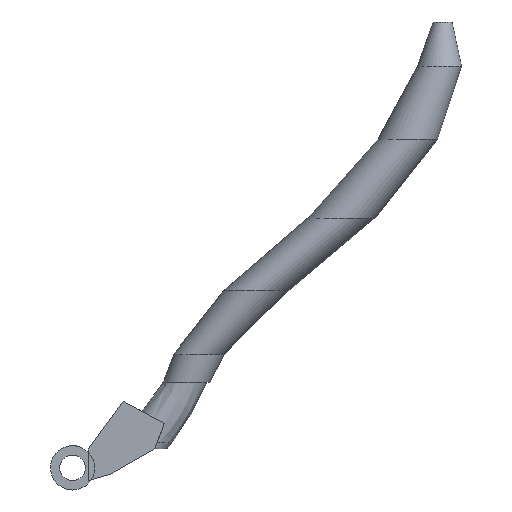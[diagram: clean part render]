
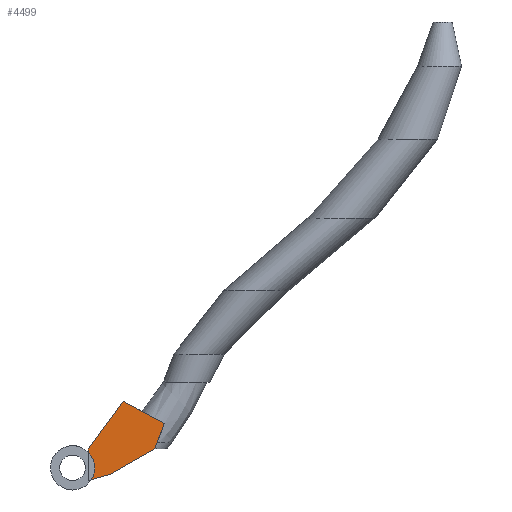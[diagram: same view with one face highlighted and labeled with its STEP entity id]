
A CAD part, front view. The second image highlights one B-rep face of the part: STEP entity #4499.
In plain terms, the highlighted planar face has unit normal (0, -1, 0).
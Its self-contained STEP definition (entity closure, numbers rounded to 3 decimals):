
#2869 = PLANE('',#2870);
#2870 = AXIS2_PLACEMENT_3D('',#2871,#2872,#2873);
#2871 = CARTESIAN_POINT('',(166.,0.,136.));
#2872 = DIRECTION('',(0.936,0.,-0.351));
#2873 = DIRECTION('',(0.351,0.,0.936));
#3612 = PLANE('',#3613);
#3613 = AXIS2_PLACEMENT_3D('',#3614,#3615,#3616);
#3614 = CARTESIAN_POINT('',(169.,0.,144.));
#3615 = DIRECTION('',(0.474,0.,0.88));
#3616 = DIRECTION('',(-0.88,0.,0.474));
#3748 = PLANE('',#3749);
#3749 = AXIS2_PLACEMENT_3D('',#3750,#3751,#3752);
#3750 = CARTESIAN_POINT('',(145.,0.,136.));
#3751 = DIRECTION('',(-1.,0.,0.));
#3752 = DIRECTION('',(0.,0.,-1.));
#3776 = PLANE('',#3777);
#3777 = AXIS2_PLACEMENT_3D('',#3778,#3779,#3780);
#3778 = CARTESIAN_POINT('',(145.,0.,126.));
#3779 = DIRECTION('',(0.275,0.,-0.962));
#3780 = DIRECTION('',(0.962,0.,0.275));
#3804 = PLANE('',#3805);
#3805 = AXIS2_PLACEMENT_3D('',#3806,#3807,#3808);
#3806 = CARTESIAN_POINT('',(152.,0.,128.));
#3807 = DIRECTION('',(0.496,0.,-0.868));
#3808 = DIRECTION('',(0.868,0.,0.496));
#3896 = PLANE('',#3897);
#3897 = AXIS2_PLACEMENT_3D('',#3898,#3899,#3900);
#3898 = CARTESIAN_POINT('',(156.,0.,151.));
#3899 = DIRECTION('',(-0.806,0.,0.591));
#3900 = DIRECTION('',(-0.591,0.,-0.806));
#3968 = EDGE_CURVE('',#3969,#3971,#3973,.T.);
#3969 = VERTEX_POINT('',#3970);
#3970 = CARTESIAN_POINT('',(166.,0.,136.));
#3971 = VERTEX_POINT('',#3972);
#3972 = CARTESIAN_POINT('',(169.,0.,144.));
#3973 = SURFACE_CURVE('',#3974,(#3978,#3985),.PCURVE_S1.);
#3974 = LINE('',#3975,#3976);
#3975 = CARTESIAN_POINT('',(166.,0.,136.));
#3976 = VECTOR('',#3977,1.);
#3977 = DIRECTION('',(0.351,0.,0.936));
#3978 = PCURVE('',#2869,#3979);
#3979 = DEFINITIONAL_REPRESENTATION('',(#3980),#3984);
#3980 = LINE('',#3981,#3982);
#3981 = CARTESIAN_POINT('',(0.,0.));
#3982 = VECTOR('',#3983,1.);
#3983 = DIRECTION('',(1.,0.));
#3984 = ( GEOMETRIC_REPRESENTATION_CONTEXT(2) 
PARAMETRIC_REPRESENTATION_CONTEXT() REPRESENTATION_CONTEXT('2D SPACE',''
  ) );
#3985 = PCURVE('',#3986,#3991);
#3986 = PLANE('',#3987);
#3987 = AXIS2_PLACEMENT_3D('',#3988,#3989,#3990);
#3988 = CARTESIAN_POINT('',(155.677,0.,138.17));
#3989 = DIRECTION('',(-0.,-1.,-0.));
#3990 = DIRECTION('',(0.,0.,-1.));
#3991 = DEFINITIONAL_REPRESENTATION('',(#3992),#3996);
#3992 = LINE('',#3993,#3994);
#3993 = CARTESIAN_POINT('',(2.17,10.323));
#3994 = VECTOR('',#3995,1.);
#3995 = DIRECTION('',(-0.936,0.351));
#3996 = ( GEOMETRIC_REPRESENTATION_CONTEXT(2) 
PARAMETRIC_REPRESENTATION_CONTEXT() REPRESENTATION_CONTEXT('2D SPACE',''
  ) );
#4045 = EDGE_CURVE('',#3971,#4046,#4048,.T.);
#4046 = VERTEX_POINT('',#4047);
#4047 = CARTESIAN_POINT('',(156.,0.,151.));
#4048 = SURFACE_CURVE('',#4049,(#4053,#4060),.PCURVE_S1.);
#4049 = LINE('',#4050,#4051);
#4050 = CARTESIAN_POINT('',(169.,0.,144.));
#4051 = VECTOR('',#4052,1.);
#4052 = DIRECTION('',(-0.88,0.,0.474));
#4053 = PCURVE('',#3612,#4054);
#4054 = DEFINITIONAL_REPRESENTATION('',(#4055),#4059);
#4055 = LINE('',#4056,#4057);
#4056 = CARTESIAN_POINT('',(0.,0.));
#4057 = VECTOR('',#4058,1.);
#4058 = DIRECTION('',(1.,0.));
#4059 = ( GEOMETRIC_REPRESENTATION_CONTEXT(2) 
PARAMETRIC_REPRESENTATION_CONTEXT() REPRESENTATION_CONTEXT('2D SPACE',''
  ) );
#4060 = PCURVE('',#3986,#4061);
#4061 = DEFINITIONAL_REPRESENTATION('',(#4062),#4066);
#4062 = LINE('',#4063,#4064);
#4063 = CARTESIAN_POINT('',(-5.83,13.323));
#4064 = VECTOR('',#4065,1.);
#4065 = DIRECTION('',(-0.474,-0.88));
#4066 = ( GEOMETRIC_REPRESENTATION_CONTEXT(2) 
PARAMETRIC_REPRESENTATION_CONTEXT() REPRESENTATION_CONTEXT('2D SPACE',''
  ) );
#4228 = EDGE_CURVE('',#4229,#4231,#4233,.T.);
#4229 = VERTEX_POINT('',#4230);
#4230 = CARTESIAN_POINT('',(145.,0.,136.));
#4231 = VERTEX_POINT('',#4232);
#4232 = CARTESIAN_POINT('',(145.,0.,134.899));
#4233 = SURFACE_CURVE('',#4234,(#4238,#4245),.PCURVE_S1.);
#4234 = LINE('',#4235,#4236);
#4235 = CARTESIAN_POINT('',(145.,0.,136.));
#4236 = VECTOR('',#4237,1.);
#4237 = DIRECTION('',(0.,0.,-1.));
#4238 = PCURVE('',#3748,#4239);
#4239 = DEFINITIONAL_REPRESENTATION('',(#4240),#4244);
#4240 = LINE('',#4241,#4242);
#4241 = CARTESIAN_POINT('',(0.,-0.));
#4242 = VECTOR('',#4243,1.);
#4243 = DIRECTION('',(1.,0.));
#4244 = ( GEOMETRIC_REPRESENTATION_CONTEXT(2) 
PARAMETRIC_REPRESENTATION_CONTEXT() REPRESENTATION_CONTEXT('2D SPACE',''
  ) );
#4245 = PCURVE('',#3986,#4246);
#4246 = DEFINITIONAL_REPRESENTATION('',(#4247),#4251);
#4247 = LINE('',#4248,#4249);
#4248 = CARTESIAN_POINT('',(2.17,-10.677));
#4249 = VECTOR('',#4250,1.);
#4250 = DIRECTION('',(1.,0.));
#4251 = ( GEOMETRIC_REPRESENTATION_CONTEXT(2) 
PARAMETRIC_REPRESENTATION_CONTEXT() REPRESENTATION_CONTEXT('2D SPACE',''
  ) );
#4354 = EDGE_CURVE('',#4046,#4229,#4355,.T.);
#4355 = SURFACE_CURVE('',#4356,(#4360,#4367),.PCURVE_S1.);
#4356 = LINE('',#4357,#4358);
#4357 = CARTESIAN_POINT('',(156.,0.,151.));
#4358 = VECTOR('',#4359,1.);
#4359 = DIRECTION('',(-0.591,0.,-0.806));
#4360 = PCURVE('',#3896,#4361);
#4361 = DEFINITIONAL_REPRESENTATION('',(#4362),#4366);
#4362 = LINE('',#4363,#4364);
#4363 = CARTESIAN_POINT('',(0.,0.));
#4364 = VECTOR('',#4365,1.);
#4365 = DIRECTION('',(1.,0.));
#4366 = ( GEOMETRIC_REPRESENTATION_CONTEXT(2) 
PARAMETRIC_REPRESENTATION_CONTEXT() REPRESENTATION_CONTEXT('2D SPACE',''
  ) );
#4367 = PCURVE('',#3986,#4368);
#4368 = DEFINITIONAL_REPRESENTATION('',(#4369),#4373);
#4369 = LINE('',#4370,#4371);
#4370 = CARTESIAN_POINT('',(-12.83,0.323));
#4371 = VECTOR('',#4372,1.);
#4372 = DIRECTION('',(0.806,-0.591));
#4373 = ( GEOMETRIC_REPRESENTATION_CONTEXT(2) 
PARAMETRIC_REPRESENTATION_CONTEXT() REPRESENTATION_CONTEXT('2D SPACE',''
  ) );
#4379 = VERTEX_POINT('',#4380);
#4380 = CARTESIAN_POINT('',(152.,0.,128.));
#4405 = EDGE_CURVE('',#4379,#3969,#4406,.T.);
#4406 = SURFACE_CURVE('',#4407,(#4411,#4418),.PCURVE_S1.);
#4407 = LINE('',#4408,#4409);
#4408 = CARTESIAN_POINT('',(152.,0.,128.));
#4409 = VECTOR('',#4410,1.);
#4410 = DIRECTION('',(0.868,0.,0.496));
#4411 = PCURVE('',#3804,#4412);
#4412 = DEFINITIONAL_REPRESENTATION('',(#4413),#4417);
#4413 = LINE('',#4414,#4415);
#4414 = CARTESIAN_POINT('',(0.,0.));
#4415 = VECTOR('',#4416,1.);
#4416 = DIRECTION('',(1.,0.));
#4417 = ( GEOMETRIC_REPRESENTATION_CONTEXT(2) 
PARAMETRIC_REPRESENTATION_CONTEXT() REPRESENTATION_CONTEXT('2D SPACE',''
  ) );
#4418 = PCURVE('',#3986,#4419);
#4419 = DEFINITIONAL_REPRESENTATION('',(#4420),#4424);
#4420 = LINE('',#4421,#4422);
#4421 = CARTESIAN_POINT('',(10.17,-3.677));
#4422 = VECTOR('',#4423,1.);
#4423 = DIRECTION('',(-0.496,0.868));
#4424 = ( GEOMETRIC_REPRESENTATION_CONTEXT(2) 
PARAMETRIC_REPRESENTATION_CONTEXT() REPRESENTATION_CONTEXT('2D SPACE',''
  ) );
#4453 = EDGE_CURVE('',#4454,#4379,#4456,.T.);
#4454 = VERTEX_POINT('',#4455);
#4455 = CARTESIAN_POINT('',(145.919,0.,126.262));
#4456 = SURFACE_CURVE('',#4457,(#4461,#4468),.PCURVE_S1.);
#4457 = LINE('',#4458,#4459);
#4458 = CARTESIAN_POINT('',(145.,0.,126.));
#4459 = VECTOR('',#4460,1.);
#4460 = DIRECTION('',(0.962,0.,0.275));
#4461 = PCURVE('',#3776,#4462);
#4462 = DEFINITIONAL_REPRESENTATION('',(#4463),#4467);
#4463 = LINE('',#4464,#4465);
#4464 = CARTESIAN_POINT('',(0.,0.));
#4465 = VECTOR('',#4466,1.);
#4466 = DIRECTION('',(1.,0.));
#4467 = ( GEOMETRIC_REPRESENTATION_CONTEXT(2) 
PARAMETRIC_REPRESENTATION_CONTEXT() REPRESENTATION_CONTEXT('2D SPACE',''
  ) );
#4468 = PCURVE('',#3986,#4469);
#4469 = DEFINITIONAL_REPRESENTATION('',(#4470),#4474);
#4470 = LINE('',#4471,#4472);
#4471 = CARTESIAN_POINT('',(12.17,-10.677));
#4472 = VECTOR('',#4473,1.);
#4473 = DIRECTION('',(-0.275,0.962));
#4474 = ( GEOMETRIC_REPRESENTATION_CONTEXT(2) 
PARAMETRIC_REPRESENTATION_CONTEXT() REPRESENTATION_CONTEXT('2D SPACE',''
  ) );
#4499 = ADVANCED_FACE('',(#4500),#3986,.T.);
#4500 = FACE_BOUND('',#4501,.T.);
#4501 = EDGE_LOOP('',(#4502,#4537,#4538,#4539,#4540,#4541,#4542));
#4502 = ORIENTED_EDGE('',*,*,#4503,.T.);
#4503 = EDGE_CURVE('',#4231,#4454,#4504,.T.);
#4504 = SURFACE_CURVE('',#4505,(#4510,#4521),.PCURVE_S1.);
#4505 = CIRCLE('',#4506,7.);
#4506 = AXIS2_PLACEMENT_3D('',#4507,#4508,#4509);
#4507 = CARTESIAN_POINT('',(140.,0.,130.));
#4508 = DIRECTION('',(0.,1.,0.));
#4509 = DIRECTION('',(0.,0.,1.));
#4510 = PCURVE('',#3986,#4511);
#4511 = DEFINITIONAL_REPRESENTATION('',(#4512),#4520);
#4512 = ( BOUNDED_CURVE() B_SPLINE_CURVE(2,(#4513,#4514,#4515,#4516,
#4517,#4518,#4519),.UNSPECIFIED.,.T.,.F.) B_SPLINE_CURVE_WITH_KNOTS((1,2
    ,2,2,2,1),(-2.094,0.,2.094,4.189,
6.283,8.378),.UNSPECIFIED.) CURVE() 
GEOMETRIC_REPRESENTATION_ITEM() RATIONAL_B_SPLINE_CURVE((1.,0.5,1.,0.5,
1.,0.5,1.)) REPRESENTATION_ITEM('') );
#4513 = CARTESIAN_POINT('',(1.17,-15.677));
#4514 = CARTESIAN_POINT('',(1.17,-3.553));
#4515 = CARTESIAN_POINT('',(11.67,-9.615));
#4516 = CARTESIAN_POINT('',(22.17,-15.677));
#4517 = CARTESIAN_POINT('',(11.67,-21.739));
#4518 = CARTESIAN_POINT('',(1.17,-27.802));
#4519 = CARTESIAN_POINT('',(1.17,-15.677));
#4520 = ( GEOMETRIC_REPRESENTATION_CONTEXT(2) 
PARAMETRIC_REPRESENTATION_CONTEXT() REPRESENTATION_CONTEXT('2D SPACE',''
  ) );
#4521 = PCURVE('',#4522,#4527);
#4522 = PLANE('',#4523);
#4523 = AXIS2_PLACEMENT_3D('',#4524,#4525,#4526);
#4524 = CARTESIAN_POINT('',(155.677,0.,138.17));
#4525 = DIRECTION('',(-0.,-1.,-0.));
#4526 = DIRECTION('',(0.,0.,-1.));
#4527 = DEFINITIONAL_REPRESENTATION('',(#4528),#4536);
#4528 = ( BOUNDED_CURVE() B_SPLINE_CURVE(2,(#4529,#4530,#4531,#4532,
#4533,#4534,#4535),.UNSPECIFIED.,.T.,.F.) B_SPLINE_CURVE_WITH_KNOTS((1,2
    ,2,2,2,1),(-2.094,0.,2.094,4.189,
6.283,8.378),.UNSPECIFIED.) CURVE() 
GEOMETRIC_REPRESENTATION_ITEM() RATIONAL_B_SPLINE_CURVE((1.,0.5,1.,0.5,
1.,0.5,1.)) REPRESENTATION_ITEM('') );
#4529 = CARTESIAN_POINT('',(1.17,-15.677));
#4530 = CARTESIAN_POINT('',(1.17,-3.553));
#4531 = CARTESIAN_POINT('',(11.67,-9.615));
#4532 = CARTESIAN_POINT('',(22.17,-15.677));
#4533 = CARTESIAN_POINT('',(11.67,-21.739));
#4534 = CARTESIAN_POINT('',(1.17,-27.802));
#4535 = CARTESIAN_POINT('',(1.17,-15.677));
#4536 = ( GEOMETRIC_REPRESENTATION_CONTEXT(2) 
PARAMETRIC_REPRESENTATION_CONTEXT() REPRESENTATION_CONTEXT('2D SPACE',''
  ) );
#4537 = ORIENTED_EDGE('',*,*,#4453,.T.);
#4538 = ORIENTED_EDGE('',*,*,#4405,.T.);
#4539 = ORIENTED_EDGE('',*,*,#3968,.T.);
#4540 = ORIENTED_EDGE('',*,*,#4045,.T.);
#4541 = ORIENTED_EDGE('',*,*,#4354,.T.);
#4542 = ORIENTED_EDGE('',*,*,#4228,.T.);
